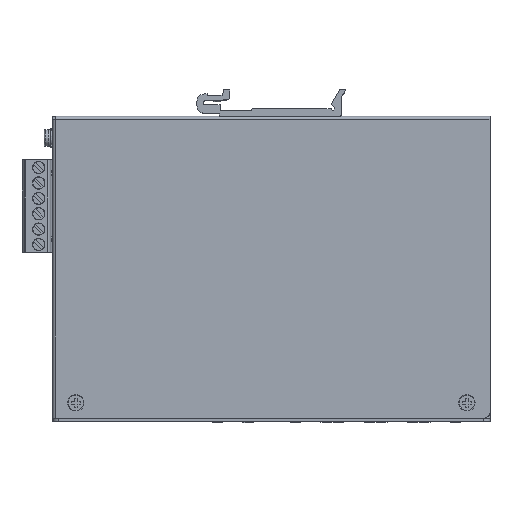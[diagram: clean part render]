
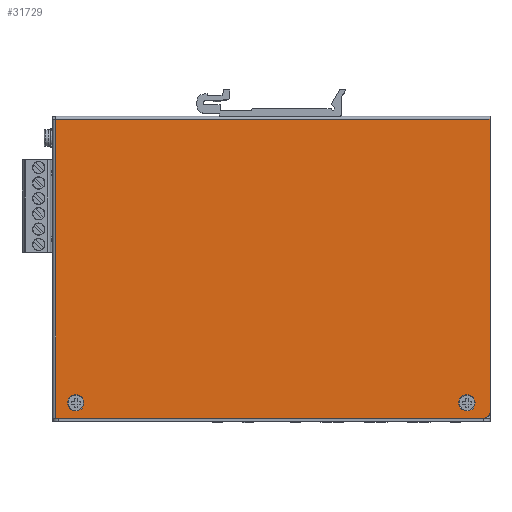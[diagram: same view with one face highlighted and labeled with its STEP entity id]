
A CAD part, top view. The second image highlights one B-rep face of the part: STEP entity #31729.
In plain terms, the highlighted planar face has unit normal (0, 0, 1).
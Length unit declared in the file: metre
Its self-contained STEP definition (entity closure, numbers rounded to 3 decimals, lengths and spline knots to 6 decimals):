
#1024=CIRCLE('',#34632,0.00265);
#1027=CIRCLE('',#34637,0.00265);
#1080=CIRCLE('',#34738,0.002);
#6485=ORIENTED_EDGE('',*,*,#13074,.T.);
#6486=ORIENTED_EDGE('',*,*,#13077,.T.);
#6487=ORIENTED_EDGE('',*,*,#13112,.T.);
#6488=ORIENTED_EDGE('',*,*,#13101,.F.);
#6489=ORIENTED_EDGE('',*,*,#13157,.F.);
#6490=ORIENTED_EDGE('',*,*,#13159,.T.);
#6491=ORIENTED_EDGE('',*,*,#13160,.T.);
#13074=EDGE_CURVE('',#16749,#16749,#1024,.T.);
#13077=EDGE_CURVE('',#16752,#16752,#1027,.T.);
#13101=EDGE_CURVE('',#16773,#16774,#19725,.T.);
#13112=EDGE_CURVE('',#16782,#16774,#19733,.T.);
#13157=EDGE_CURVE('',#16821,#16773,#19741,.T.);
#13159=EDGE_CURVE('',#16821,#16822,#19743,.T.);
#13160=EDGE_CURVE('',#16822,#16782,#1080,.T.);
#16749=VERTEX_POINT('',#53005);
#16752=VERTEX_POINT('',#53013);
#16773=VERTEX_POINT('',#53068);
#16774=VERTEX_POINT('',#53070);
#16782=VERTEX_POINT('',#53092);
#16821=VERTEX_POINT('',#53208);
#16822=VERTEX_POINT('',#53213);
#19725=LINE('',#53069,#22691);
#19733=LINE('',#53091,#22699);
#19741=LINE('',#53209,#22707);
#19743=LINE('',#53212,#22709);
#22691=VECTOR('',#40957,1.);
#22699=VECTOR('',#40977,1.);
#22707=VECTOR('',#41125,1.);
#22709=VECTOR('',#41129,1.);
#25485=EDGE_LOOP('',(#6485));
#25486=EDGE_LOOP('',(#6486));
#25487=EDGE_LOOP('',(#6487,#6488,#6489,#6490,#6491));
#28159=FACE_BOUND('',#25485,.T.);
#28160=FACE_BOUND('',#25486,.T.);
#28161=FACE_BOUND('',#25487,.T.);
#30166=PLANE('',#34737);
#31729=ADVANCED_FACE('',(#28159,#28160,#28161),#30166,.T.);
#34632=AXIS2_PLACEMENT_3D('',#53004,#40888,#40889);
#34637=AXIS2_PLACEMENT_3D('',#53012,#40898,#40899);
#34737=AXIS2_PLACEMENT_3D('',#53211,#41127,#41128);
#34738=AXIS2_PLACEMENT_3D('',#53214,#41130,#41131);
#40888=DIRECTION('',(0.,0.,-1.));
#40889=DIRECTION('',(0.,1.,0.));
#40898=DIRECTION('',(0.,0.,-1.));
#40899=DIRECTION('',(0.,1.,0.));
#40957=DIRECTION('',(1.,0.,0.));
#40977=DIRECTION('',(0.,1.,0.));
#41125=DIRECTION('',(0.,1.,0.));
#41127=DIRECTION('',(0.,0.,1.));
#41128=DIRECTION('',(1.,0.,0.));
#41129=DIRECTION('',(1.,0.,0.));
#41130=DIRECTION('',(0.,0.,1.));
#41131=DIRECTION('',(0.,-1.,0.));
#53004=CARTESIAN_POINT('',(-0.064,-0.0429,0.03));
#53005=CARTESIAN_POINT('',(-0.064,-0.04025,0.03));
#53012=CARTESIAN_POINT('',(0.063,-0.0429,0.03));
#53013=CARTESIAN_POINT('',(0.063,-0.04025,0.03));
#53068=CARTESIAN_POINT('',(-0.0705,0.0491,0.03));
#53069=CARTESIAN_POINT('',(-0.0705,0.0491,0.03));
#53070=CARTESIAN_POINT('',(0.0705,0.0491,0.03));
#53091=CARTESIAN_POINT('',(0.0705,0.0011,0.03));
#53092=CARTESIAN_POINT('',(0.0705,-0.0459,0.03));
#53208=CARTESIAN_POINT('',(-0.0705,-0.0479,0.03));
#53209=CARTESIAN_POINT('',(-0.0705,-0.0479,0.03));
#53211=CARTESIAN_POINT('',(0.,0.0011,0.03));
#53212=CARTESIAN_POINT('',(-0.0705,-0.0479,0.03));
#53213=CARTESIAN_POINT('',(0.0685,-0.0479,0.03));
#53214=CARTESIAN_POINT('',(0.0685,-0.0459,0.03));
